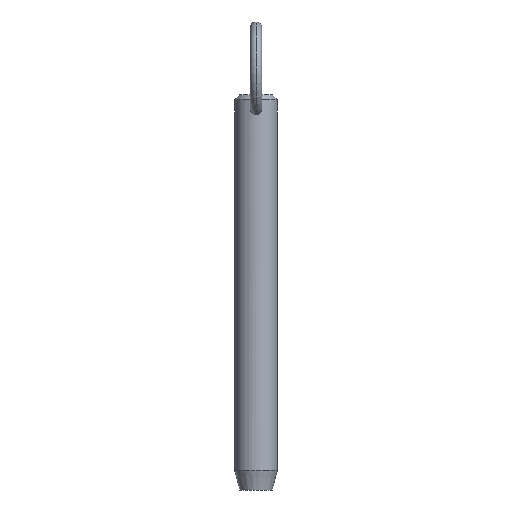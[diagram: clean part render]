
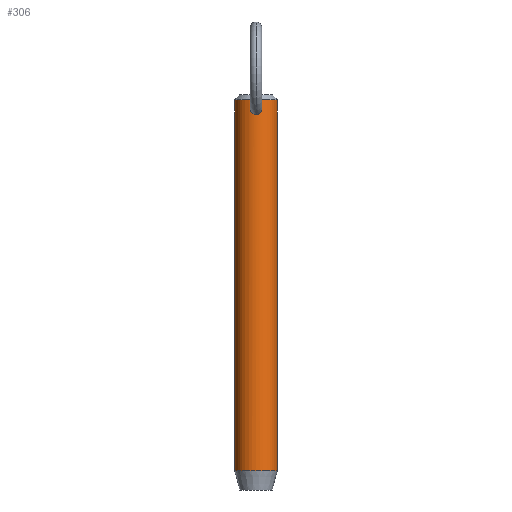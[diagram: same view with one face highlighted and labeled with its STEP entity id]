
A CAD part, front view. The second image highlights one B-rep face of the part: STEP entity #306.
In plain terms, the highlighted cylindrical face has radius 5.55 mm (diameter 11.1 mm), a partial arc.
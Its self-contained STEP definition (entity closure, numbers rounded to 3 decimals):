
#1 = CARTESIAN_POINT ( 'NONE',  ( 0.786, -5.497, 86.757 ) ) ;
#9 = DIRECTION ( 'NONE',  ( -1., 0., 0. ) ) ;
#10 = ORIENTED_EDGE ( 'NONE', *, *, #179, .T. ) ;
#17 = VERTEX_POINT ( 'NONE', #386 ) ;
#28 = VECTOR ( 'NONE', #311, 1000. ) ;
#36 = CARTESIAN_POINT ( 'NONE',  ( 0., -5.55, 87.045 ) ) ;
#41 = ORIENTED_EDGE ( 'NONE', *, *, #206, .T. ) ;
#45 = ORIENTED_EDGE ( 'NONE', *, *, #269, .T. ) ;
#67 = CARTESIAN_POINT ( 'NONE',  ( 5.55, 0., 82.3 ) ) ;
#68 = CARTESIAN_POINT ( 'NONE',  ( -1.26, -5.407, 84.242 ) ) ;
#78 = CARTESIAN_POINT ( 'NONE',  ( 1.295, -5.397, 86.082 ) ) ;
#79 = VECTOR ( 'NONE', #230, 1000. ) ;
#83 = EDGE_CURVE ( 'NONE', #361, #505, #134, .T. ) ;
#89 = CYLINDRICAL_SURFACE ( 'NONE', #277, 5.55 ) ;
#102 = ORIENTED_EDGE ( 'NONE', *, *, #171, .F. ) ;
#106 = CARTESIAN_POINT ( 'NONE',  ( -0.513, -5.527, 86.923 ) ) ;
#111 = CARTESIAN_POINT ( 'NONE',  ( -1.362, -5.381, 84.432 ) ) ;
#113 = CARTESIAN_POINT ( 'NONE',  ( 0.515, -5.527, 86.922 ) ) ;
#116 = CARTESIAN_POINT ( 'NONE',  ( 0.106, -5.55, 87.045 ) ) ;
#117 = CARTESIAN_POINT ( 'NONE',  ( 0.716, -5.504, 83.752 ) ) ;
#120 = CARTESIAN_POINT ( 'NONE',  ( 0.523, -5.526, 83.666 ) ) ;
#124 = CARTESIAN_POINT ( 'NONE',  ( 1.477, -5.35, 84.844 ) ) ;
#134 = LINE ( 'NONE', #308, #79 ) ;
#141 = VERTEX_POINT ( 'NONE', #481 ) ;
#152 = CARTESIAN_POINT ( 'NONE',  ( -0.523, -5.526, 83.666 ) ) ;
#154 = CARTESIAN_POINT ( 'NONE',  ( -0.716, -5.504, 83.752 ) ) ;
#157 = CARTESIAN_POINT ( 'NONE',  ( -0.212, -5.547, 83.588 ) ) ;
#159 = EDGE_LOOP ( 'NONE', ( #41, #10 ) ) ;
#160 = CARTESIAN_POINT ( 'NONE',  ( -1.455, -5.356, 84.736 ) ) ;
#161 = CARTESIAN_POINT ( 'NONE',  ( 0., -5.55, 87.045 ) ) ;
#162 = CARTESIAN_POINT ( 'NONE',  ( 1.363, -5.38, 84.434 ) ) ;
#165 = CARTESIAN_POINT ( 'NONE',  ( 0.977, -5.464, 83.932 ) ) ;
#171 = EDGE_CURVE ( 'NONE', #244, #141, #446, .T. ) ;
#175 = DIRECTION ( 'NONE',  ( -1., 0., 0. ) ) ;
#179 = EDGE_CURVE ( 'NONE', #181, #17, #188, .T. ) ;
#181 = VERTEX_POINT ( 'NONE', #203 ) ;
#186 = ORIENTED_EDGE ( 'NONE', *, *, #83, .T. ) ;
#188 = B_SPLINE_CURVE_WITH_KNOTS ( 'NONE', 3,
 ( #271, #443, #157, #316, #152, #154, #521, #400, #274, #68, #111, #160, #234, #444, #196, #522, #275, #442, #349, #519, #272, #106, #393, #190, #364, #161 ),
 .UNSPECIFIED., .F., .F.,
 ( 4, 2, 2, 2, 2, 2, 2, 2, 2, 2, 2, 2, 4 ),
 ( 0.01, 0.01, 0.01, 0.011, 0.011, 0.012, 0.012, 0.012, 0.013, 0.013, 0.014, 0.014, 0.015 ),
 .UNSPECIFIED. ) ;
#190 = CARTESIAN_POINT ( 'NONE',  ( -0.211, -5.547, 87.029 ) ) ;
#196 = CARTESIAN_POINT ( 'NONE',  ( -1.503, -5.343, 85.159 ) ) ;
#198 = CARTESIAN_POINT ( 'NONE',  ( 5.55, 0., 87.35 ) ) ;
#203 = CARTESIAN_POINT ( 'NONE',  ( 0., -5.55, 83.577 ) ) ;
#206 = EDGE_CURVE ( 'NONE', #17, #181, #432, .T. ) ;
#230 = DIRECTION ( 'NONE',  ( 0., 0., -1. ) ) ;
#234 = CARTESIAN_POINT ( 'NONE',  ( -1.477, -5.35, 84.842 ) ) ;
#237 = CARTESIAN_POINT ( 'NONE',  ( 0.213, -5.547, 83.588 ) ) ;
#244 = VERTEX_POINT ( 'NONE', #198 ) ;
#246 = CARTESIAN_POINT ( 'NONE',  ( -5.55, 0., 87.35 ) ) ;
#250 = DIRECTION ( 'NONE',  ( 0., 0., -1. ) ) ;
#269 = EDGE_CURVE ( 'NONE', #244, #361, #520, .T. ) ;
#271 = CARTESIAN_POINT ( 'NONE',  ( 0., -5.55, 83.577 ) ) ;
#272 = CARTESIAN_POINT ( 'NONE',  ( -0.785, -5.497, 86.758 ) ) ;
#274 = CARTESIAN_POINT ( 'NONE',  ( -1.054, -5.449, 84.004 ) ) ;
#275 = CARTESIAN_POINT ( 'NONE',  ( -1.44, -5.36, 85.687 ) ) ;
#277 = AXIS2_PLACEMENT_3D ( 'NONE', #370, #498, #9 ) ;
#279 = CARTESIAN_POINT ( 'NONE',  ( 0., -5.55, 83.577 ) ) ;
#282 = CARTESIAN_POINT ( 'NONE',  ( 0.807, -5.492, 83.806 ) ) ;
#285 = DIRECTION ( 'NONE',  ( 0., 0., 1. ) ) ;
#306 = ADVANCED_FACE ( 'NONE', ( #412, #389 ), #89, .T. ) ;
#308 = CARTESIAN_POINT ( 'NONE',  ( -5.55, 0., 82.3 ) ) ;
#311 = DIRECTION ( 'NONE',  ( 0., 0., -1. ) ) ;
#316 = CARTESIAN_POINT ( 'NONE',  ( -0.42, -5.535, 83.632 ) ) ;
#318 = CARTESIAN_POINT ( 'NONE',  ( 1.44, -5.36, 85.686 ) ) ;
#320 = CARTESIAN_POINT ( 'NONE',  ( 0.107, -5.55, 83.577 ) ) ;
#321 = CARTESIAN_POINT ( 'NONE',  ( 0.417, -5.535, 86.967 ) ) ;
#322 = CARTESIAN_POINT ( 'NONE',  ( 0.214, -5.547, 87.028 ) ) ;
#323 = EDGE_CURVE ( 'NONE', #505, #141, #451, .T. ) ;
#327 = CARTESIAN_POINT ( 'NONE',  ( 1.194, -5.422, 86.271 ) ) ;
#330 = CARTESIAN_POINT ( 'NONE',  ( 0., 0., 87.35 ) ) ;
#338 = AXIS2_PLACEMENT_3D ( 'NONE', #421, #285, #175 ) ;
#349 = CARTESIAN_POINT ( 'NONE',  ( -1.195, -5.421, 86.271 ) ) ;
#354 = CARTESIAN_POINT ( 'NONE',  ( 1.486, -5.347, 85.474 ) ) ;
#361 = VERTEX_POINT ( 'NONE', #246 ) ;
#364 = CARTESIAN_POINT ( 'NONE',  ( -0.106, -5.55, 87.045 ) ) ;
#370 = CARTESIAN_POINT ( 'NONE',  ( 0., 0., 82.3 ) ) ;
#371 = AXIS2_PLACEMENT_3D ( 'NONE', #330, #250, #462 ) ;
#381 = CARTESIAN_POINT ( 'NONE',  ( -5.55, 0., -9.2 ) ) ;
#386 = CARTESIAN_POINT ( 'NONE',  ( 0., -5.55, 87.045 ) ) ;
#389 = FACE_BOUND ( 'NONE', #159, .T. ) ;
#393 = CARTESIAN_POINT ( 'NONE',  ( -0.416, -5.535, 86.967 ) ) ;
#400 = CARTESIAN_POINT ( 'NONE',  ( -0.976, -5.464, 83.931 ) ) ;
#403 = CARTESIAN_POINT ( 'NONE',  ( 1.503, -5.343, 85.159 ) ) ;
#406 = CARTESIAN_POINT ( 'NONE',  ( 1.455, -5.356, 84.738 ) ) ;
#412 = FACE_OUTER_BOUND ( 'NONE', #488, .T. ) ;
#421 = CARTESIAN_POINT ( 'NONE',  ( 0., 0., -9.2 ) ) ;
#432 = B_SPLINE_CURVE_WITH_KNOTS ( 'NONE', 3,
 ( #36, #116, #322, #321, #113, #1, #449, #327, #78, #318, #354, #403, #453, #124, #406, #162, #494, #527, #165, #282, #117, #120, #490, #237, #320, #279 ),
 .UNSPECIFIED., .F., .F.,
 ( 4, 2, 2, 2, 2, 2, 2, 2, 2, 2, 2, 2, 4 ),
 ( 0.005, 0.005, 0.005, 0.006, 0.006, 0.007, 0.007, 0.008, 0.008, 0.009, 0.009, 0.009, 0.01 ),
 .UNSPECIFIED. ) ;
#442 = CARTESIAN_POINT ( 'NONE',  ( -1.294, -5.398, 86.086 ) ) ;
#443 = CARTESIAN_POINT ( 'NONE',  ( -0.107, -5.55, 83.577 ) ) ;
#444 = CARTESIAN_POINT ( 'NONE',  ( -1.5, -5.343, 85.053 ) ) ;
#446 = LINE ( 'NONE', #67, #28 ) ;
#449 = CARTESIAN_POINT ( 'NONE',  ( 0.941, -5.471, 86.607 ) ) ;
#451 = CIRCLE ( 'NONE', #338, 5.55 ) ;
#453 = CARTESIAN_POINT ( 'NONE',  ( 1.5, -5.343, 85.054 ) ) ;
#462 = DIRECTION ( 'NONE',  ( 1., 0., 0. ) ) ;
#467 = ORIENTED_EDGE ( 'NONE', *, *, #323, .T. ) ;
#481 = CARTESIAN_POINT ( 'NONE',  ( 5.55, 0., -9.2 ) ) ;
#488 = EDGE_LOOP ( 'NONE', ( #102, #45, #186, #467 ) ) ;
#490 = CARTESIAN_POINT ( 'NONE',  ( 0.421, -5.535, 83.632 ) ) ;
#494 = CARTESIAN_POINT ( 'NONE',  ( 1.26, -5.407, 84.243 ) ) ;
#498 = DIRECTION ( 'NONE',  ( 0., 0., -1. ) ) ;
#505 = VERTEX_POINT ( 'NONE', #381 ) ;
#519 = CARTESIAN_POINT ( 'NONE',  ( -0.939, -5.472, 86.61 ) ) ;
#520 = CIRCLE ( 'NONE', #371, 5.55 ) ;
#521 = CARTESIAN_POINT ( 'NONE',  ( -0.807, -5.492, 83.805 ) ) ;
#522 = CARTESIAN_POINT ( 'NONE',  ( -1.485, -5.348, 85.479 ) ) ;
#527 = CARTESIAN_POINT ( 'NONE',  ( 1.055, -5.449, 84.005 ) ) ;
